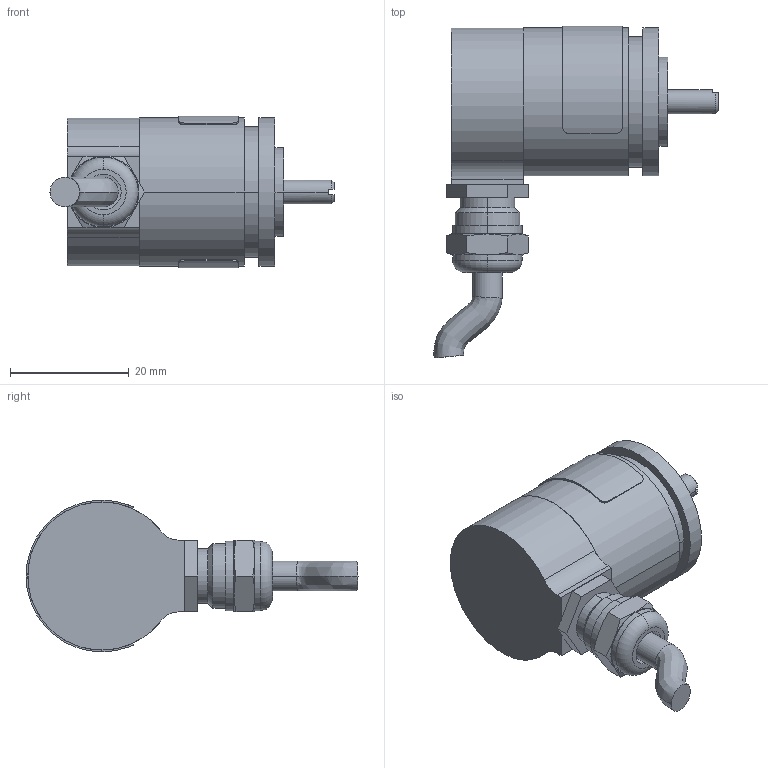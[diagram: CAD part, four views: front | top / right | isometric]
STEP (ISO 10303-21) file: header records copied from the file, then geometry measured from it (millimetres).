
FILE_DESCRIPTION (( 'STEP AP203' ), '1' );
FILE_NAME ('HTx25 4x10 PG R.STEP', '2022-05-31T13:11:02', ( '' ), ( '' ), 'SwSTEP 2.0', 'SolidWorks 2019', '' );
FILE_SCHEMA (( 'CONFIG_CONTROL_DESIGN' ));
Length unit declared in the file: millimetre
Products named in the file (1): HTx25 4x10 PG R
Bounding box: 47.98 x 56.03 x 25.6 mm (x, y, z)
Surface area: 7927 mm2 (no closed solid volume)
Topology: 0 solids, 13 shells, 158 faces, 380 edges, 248 vertices
Faces by surface type: cylinder 63, plane 51, cone 36, bspline 6, torus 2
Entity records: 5435 total; most frequent: CARTESIAN_POINT 1673, DIRECTION 807, ORIENTED_EDGE 698, EDGE_CURVE 380, AXIS2_PLACEMENT_3D 328, VERTEX_POINT 248, EDGE_LOOP 184, CIRCLE 175
